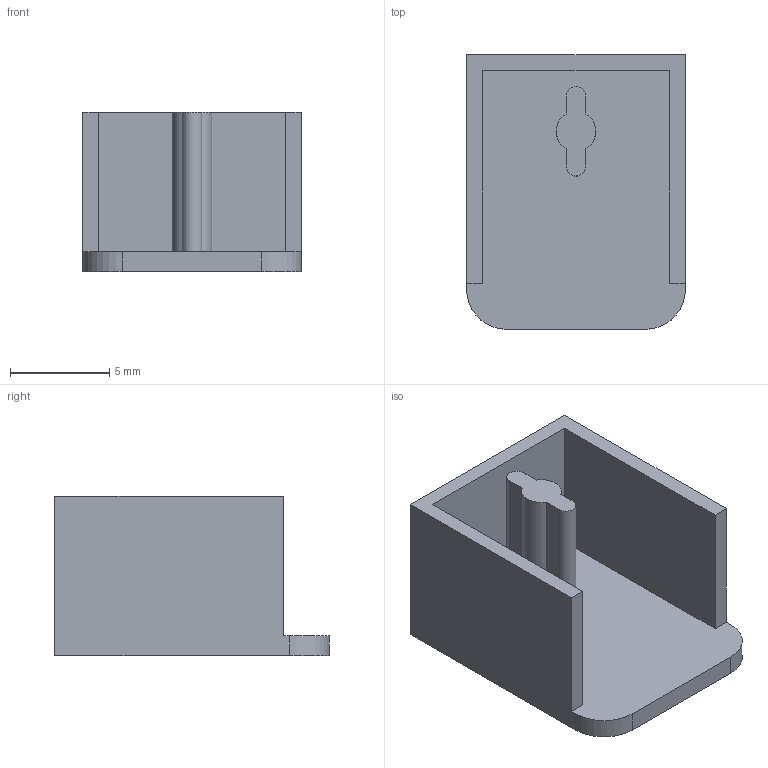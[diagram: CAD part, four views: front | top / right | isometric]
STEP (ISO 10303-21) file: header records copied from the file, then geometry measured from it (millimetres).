
FILE_DESCRIPTION((''),'2;1');
FILE_NAME('SB109099_3D-SIMPLIFIED','2012-04-03T',('Nyco'),(''),'PRO/ENGINEER BY PARAMETRIC TECHNOLOGY CORPORATION, 2006170','PRO/ENGINEER BY PARAMETRIC TECHNOLOGY CORPORATION, 2006170','');
FILE_SCHEMA(('CONFIG_CONTROL_DESIGN'));
Length unit declared in the file: millimetre
Products named in the file (1): SB109099_3D-SIMPLIFIED
Bounding box: 11 x 13.8 x 8 mm (x, y, z)
Volume: 370.1 mm3; surface area: 888.9 mm2
Topology: 1 solids, 1 shells, 23 faces, 60 edges, 40 vertices
Faces by surface type: plane 17, cylinder 6
Entity records: 744 total; most frequent: CARTESIAN_POINT 123, ORIENTED_EDGE 120, DIRECTION 118, EDGE_CURVE 60, VECTOR 48, LINE 48, VERTEX_POINT 40, AXIS2_PLACEMENT_3D 35
